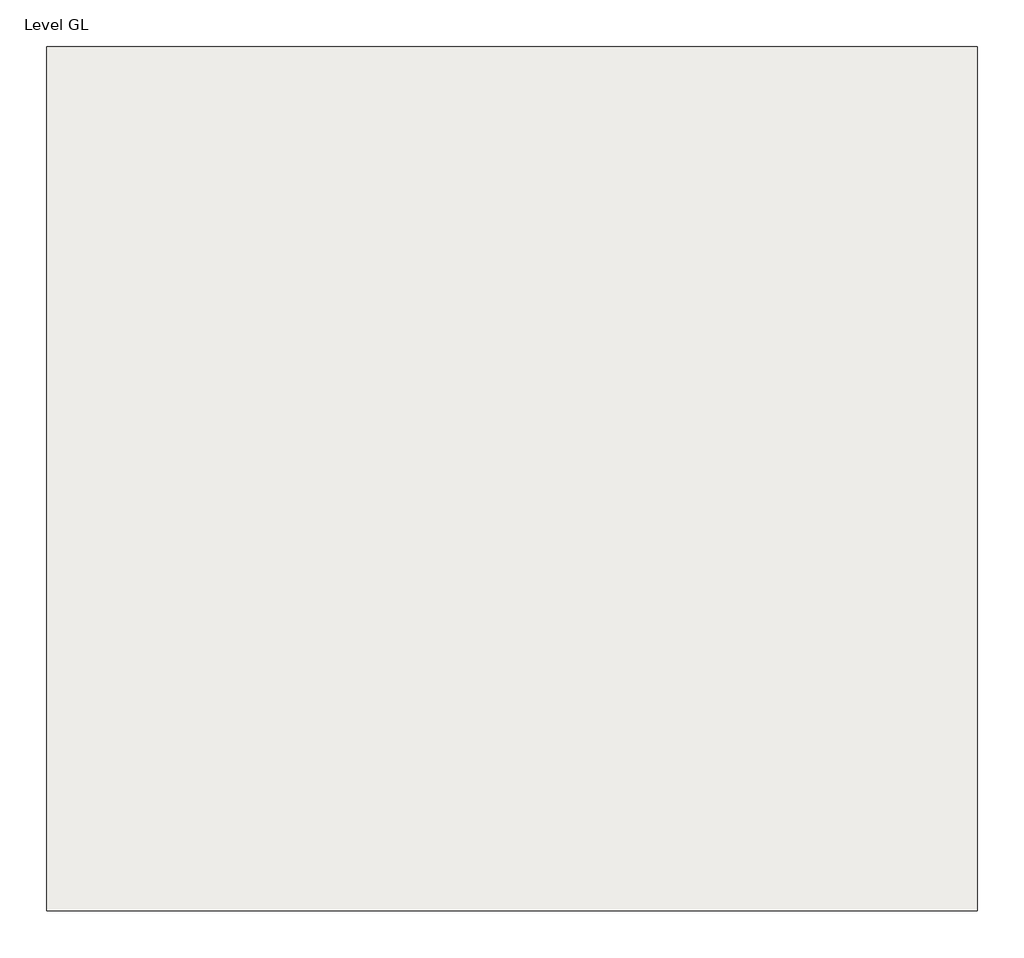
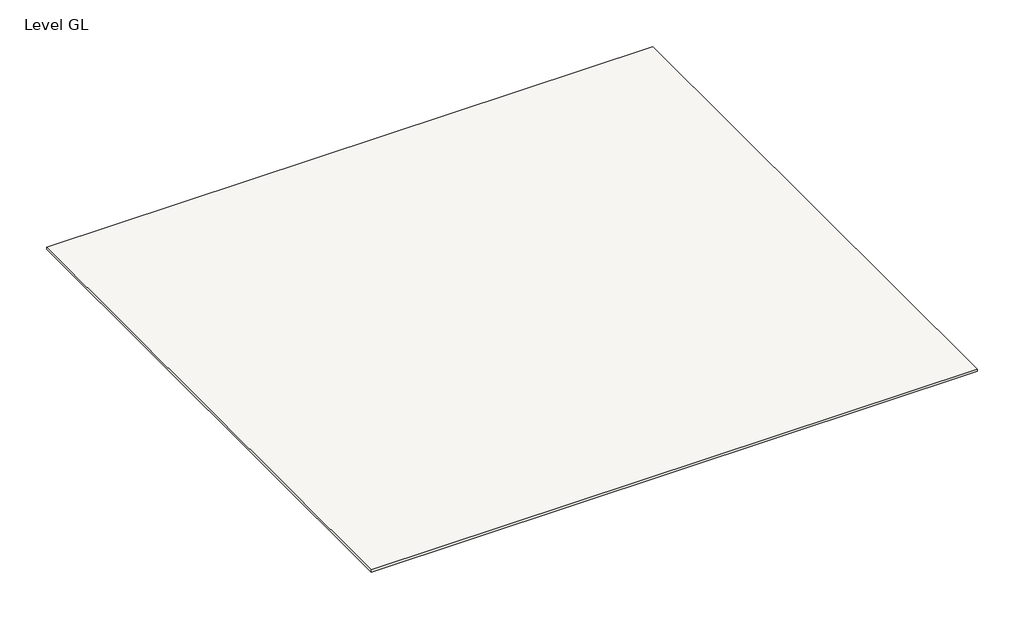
# One storey: 1 slab.
"""IFC4 building model written with IfcOpenShell, lengths in millimetres."""

import ifcopenshell
import ifcopenshell.guid

model = None  # the IFC model being written
_history = None  # IfcOwnerHistory: only IFC2X3 demands one
_inside = {}  # id of a spatial element -> (the spatial element, [elements in it])
_under = {}  # id of a project, library or spatial element -> (it, [spatial elements below it])
_declared = {}  # id of a project -> (the project, [libraries it declares])
_typed = {}  # id of a type object -> (the type object, [elements of that type])
_made_of = {}  # id of a material, layer set ... -> (it, [elements and type objects made of it])


def new_model(schema):
    """Start an empty IFC model of exactly this schema.

    Asked for "IFC4X3", IfcOpenShell would pick the latest addendum, in which some entities
    have other attributes; the version numbers below select the first issue.
    IFC2X3 requires an IfcOwnerHistory on every rooted entity: one is made here for all.
    """
    global model, _history
    if schema == "IFC4X3":
        model = ifcopenshell.file(schema_version=(4, 3, 0, 0))
    else:
        model = ifcopenshell.file(schema=schema)
    _inside.clear()
    _under.clear()
    _declared.clear()
    _typed.clear()
    _made_of.clear()
    _history = None
    if model.schema == "IFC2X3":
        org = make("IfcOrganization", Name="unknown")
        user = make(
            "IfcPersonAndOrganization",
            ThePerson=make("IfcPerson", FamilyName="unknown"),
            TheOrganization=org,
        )
        app = make(
            "IfcApplication",
            ApplicationDeveloper=org,
            Version="unknown",
            ApplicationFullName="unknown",
            ApplicationIdentifier="unknown",
        )
        _history = make(
            "IfcOwnerHistory",
            OwningUser=user,
            OwningApplication=app,
            ChangeAction="ADDED",
            CreationDate=0,
        )
    return model


def make(cls, **values):
    """One entity of the class cls with the attributes given. An attribute that is None is left unset."""
    return model.create_entity(
        cls, **{name: value for name, value in values.items() if value is not None}
    )


def rooted(cls, **values):
    """An entity with a GlobalId (a new one), such as an element, a storey or a relation."""
    return make(cls, GlobalId=ifcopenshell.guid.new(), OwnerHistory=_history, **values)


def si_unit(unit_type, name, prefix=None):
    """IfcSIUnit, for example si_unit("LENGTHUNIT", "METRE", prefix="MILLI")."""
    return make("IfcSIUnit", UnitType=unit_type, Prefix=prefix, Name=name)


def assignment(units):
    """IfcUnitAssignment: the units of a project."""
    return None if units is None else make("IfcUnitAssignment", Units=units)


def point(xyz):
    """IfcCartesianPoint."""
    return None if xyz is None else make("IfcCartesianPoint", Coordinates=xyz)


def direction(xyz):
    """IfcDirection."""
    return None if xyz is None else make("IfcDirection", DirectionRatios=xyz)


def frame(location, z_axis=None, x_axis=None):
    """IfcAxis2Placement3D, a coordinate frame: its origin and axes. An axis left out is left unset."""
    return make(
        "IfcAxis2Placement3D",
        Location=point(location),
        Axis=direction(z_axis),
        RefDirection=direction(x_axis),
    )


def origin():
    """The frame at (0, 0, 0) with its axes left unset."""
    return frame((0.0, 0.0, 0.0))


def place(relative_to, where):
    """IfcLocalPlacement: puts the frame where relative to a parent placement (None: the world)."""
    return make(
        "IfcLocalPlacement", PlacementRelTo=relative_to, RelativePlacement=where
    )


def context(
    kind, dimensions, precision=None, world=None, true_north=None, identifier=None
):
    """IfcGeometricRepresentationContext, for example the 3D "Model" context."""
    return make(
        "IfcGeometricRepresentationContext",
        ContextIdentifier=identifier,
        ContextType=kind,
        CoordinateSpaceDimension=dimensions,
        Precision=precision,
        WorldCoordinateSystem=world,
        TrueNorth=true_north,
    )


def project(units=None, contexts=None):
    """IfcProject with its units and contexts."""
    return rooted(
        "IfcProject",
        Name="project",
        RepresentationContexts=contexts,
        UnitsInContext=assignment(units),
    )


def spatial(cls, under=None, at=None, **own):
    """A site, building, storey or space (cls), placed at a placement, below another one or the project."""
    s = rooted(cls, ObjectPlacement=at, **own)
    if under is not None:
        _under.setdefault(under.id(), (under, []))[1].append(s)
    return s


def polyline(points):
    """IfcPolyline through the points."""
    return make("IfcPolyline", Points=[point(p) for p in points])


def outline(outer, holes=None, kind="AREA"):
    """IfcArbitraryClosedProfileDef: a profile drawn as a closed curve; with holes, ...WithVoids."""
    if holes is None:
        return make("IfcArbitraryClosedProfileDef", ProfileType=kind, OuterCurve=outer)
    return make(
        "IfcArbitraryProfileDefWithVoids",
        ProfileType=kind,
        OuterCurve=outer,
        InnerCurves=holes,
    )


def extrude(swept, where, along, depth):
    """IfcExtrudedAreaSolid: the profile swept, set in the frame where, extruded along a direction by depth."""
    return make(
        "IfcExtrudedAreaSolid",
        SweptArea=swept,
        Position=where,
        ExtrudedDirection=direction(along),
        Depth=depth,
    )


def shape(context_of_items, identifier, shape_type, items):
    """IfcShapeRepresentation: the items that make up one representation, for example the "Body"."""
    return make(
        "IfcShapeRepresentation",
        ContextOfItems=context_of_items,
        RepresentationIdentifier=identifier,
        RepresentationType=shape_type,
        Items=items,
    )


def made_of(thing, what):
    """Note that an element or type object is made of a material, layer set ...; save() writes the relation."""
    if what is not None:
        _made_of.setdefault(what.id(), (what, []))[1].append(thing)
    return thing


def element(
    cls,
    number,
    at=None,
    inside=None,
    cuts=None,
    type_object=None,
    material=None,
    context=None,
    identifier="Body",
    shape_type=None,
    held_by="IfcProductDefinitionShape",
    body=None,
    shapes=None,
    **own,
):
    """One element of the class cls, such as IfcWall. Its Tag is "e" and its number.

    at: its placement. inside: the storey or other place that contains it. cuts: it is an
    opening in that element (IfcRelVoidsElement). A single representation is given by context,
    identifier, shape_type and body (its items); several are given by shapes. held_by: the class
    of the entity that holds the representations. save() writes the other relations.
    """
    e = rooted(cls, Tag="e%d" % number, ObjectPlacement=at, **own)
    if body is not None:
        shapes = [shape(context, identifier, shape_type, body)]
    if shapes is not None:
        e.Representation = make(held_by, Representations=shapes)
    if inside is not None:
        _inside.setdefault(inside.id(), (inside, []))[1].append(e)
    if cuts is not None:
        rooted(
            "IfcRelVoidsElement", RelatingBuildingElement=cuts, RelatedOpeningElement=e
        )
    if type_object is not None:
        _typed.setdefault(type_object.id(), (type_object, []))[1].append(e)
    return made_of(e, material)


def aggregate(whole, parts):
    """IfcRelAggregates: a whole, such as a stair, and the parts it consists of."""
    return rooted("IfcRelAggregates", RelatingObject=whole, RelatedObjects=parts)


def save(model, path):
    """Write the relations noted so far, then the file.

    IfcRelAggregates (storeys below a building ...), IfcRelContainedInSpatialStructure (elements
    in a storey), IfcRelDefinesByType, IfcRelAssociatesMaterial and IfcRelDeclares: one each for
    every whole, place, type object, material and project.
    """
    for whole, parts in _under.values():
        aggregate(whole, parts)
    for where, things in _inside.values():
        rooted(
            "IfcRelContainedInSpatialStructure",
            RelatedElements=things,
            RelatingStructure=where,
        )
    for kind, things in _typed.values():
        rooted("IfcRelDefinesByType", RelatedObjects=things, RelatingType=kind)
    for what, things in _made_of.values():
        rooted("IfcRelAssociatesMaterial", RelatedObjects=things, RelatingMaterial=what)
    for by, libraries in _declared.values():
        rooted("IfcRelDeclares", RelatingContext=by, RelatedDefinitions=libraries)
    model.write(path)


model = new_model("IFC4")

# Units and contexts
model_context = context("Model", 3, world=origin())
ifc_project = project(units=[si_unit("LENGTHUNIT", "METRE", prefix="MILLI")], contexts=[model_context])

# Site, building, storey
site = spatial("IfcSite", under=ifc_project)
building = spatial("IfcBuilding", under=site)
storey = spatial("IfcBuildingStorey", under=building, Name="Level GL", Elevation=0.0)

# Slab
placement = place(None, origin())
element("IfcSlab", 1, ObjectType="Generic 150mm", at=placement, inside=storey, context=model_context, shape_type="SweptSolid", body=[
    extrude(outline(polyline([(20018.8053844, 10430.8176809), (20018.8053844, -28569.1823191), (-21981.1946156, -28569.1823191), (-21981.1946156, 10430.8176809), (20018.8053844, 10430.8176809)])), frame((0.0, 0.0, -150.0), z_axis=(0.0, 0.0, 1.0), x_axis=(1.0, 0.0, 0.0)), (0.0, 0.0, 1.0), 150.0),
])

save(model, "model.ifc")
